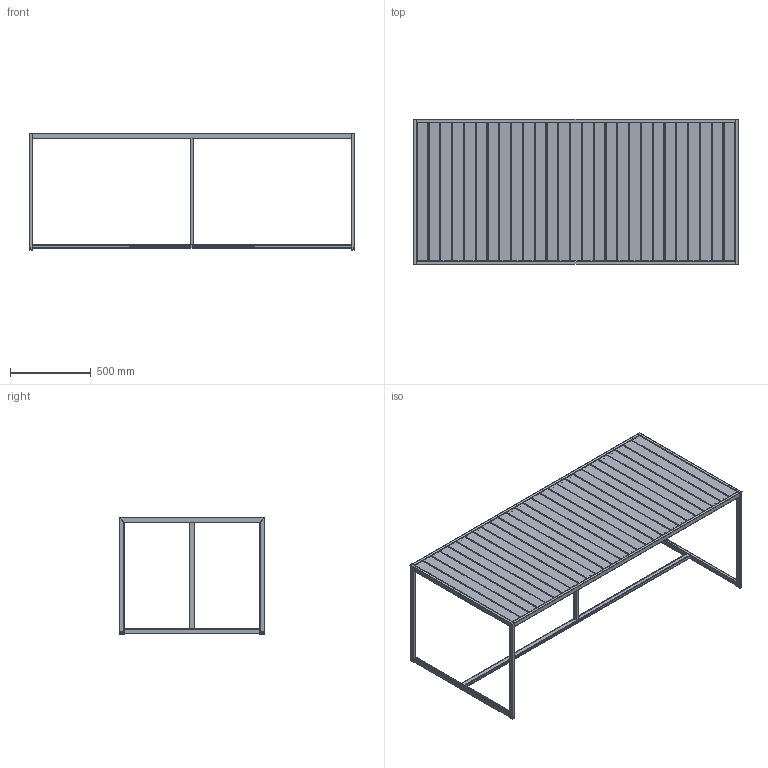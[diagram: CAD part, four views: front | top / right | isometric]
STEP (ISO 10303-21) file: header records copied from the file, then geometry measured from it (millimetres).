
FILE_DESCRIPTION(/* description */ (''),/* implementation_level */ '2;1');
FILE_NAME(/* name */ 'Garden_bistrotable6.stp',/* time_stamp */ '2023-04-06T12:50:28+02:00',/* author */ ('TorbjörnMalm'),/* organization */ (''),/* preprocessor_version */ 'ST-DEVELOPER v19.2',/* originating_system */ 'Autodesk Inventor 2023',/* authorisation */ '');
FILE_SCHEMA (('AUTOMOTIVE_DESIGN { 1 0 10303 214 3 1 1 }'));
Products named in the file (1): Garden_bistrotable6
Bounding box: 2014 x 900 x 724 mm (x, y, z)
Surface area: 5073470.3 mm2 (no closed solid volume)
Topology: 0 solids, 855 shells, 4129 faces, 9882 edges, 5650 vertices
Faces by surface type: plane 4129
Entity records: 117412 total; most frequent: CARTESIAN_POINT 19698, ORIENTED_EDGE 19021, DIRECTION 18178, LINE 9918, VECTOR 9918, EDGE_CURVE 9918, VERTEX_POINT 5649, EDGE_LOOP 4249
